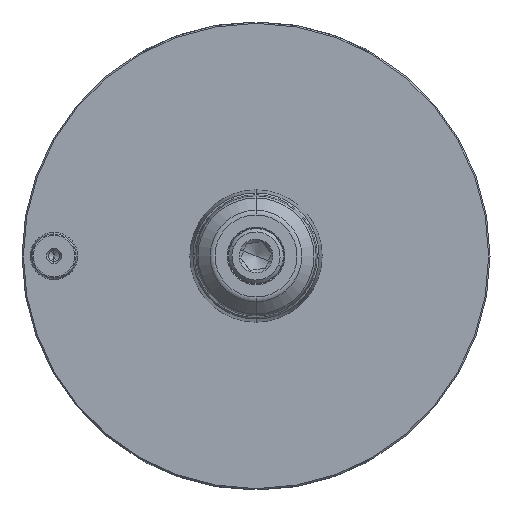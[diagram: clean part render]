
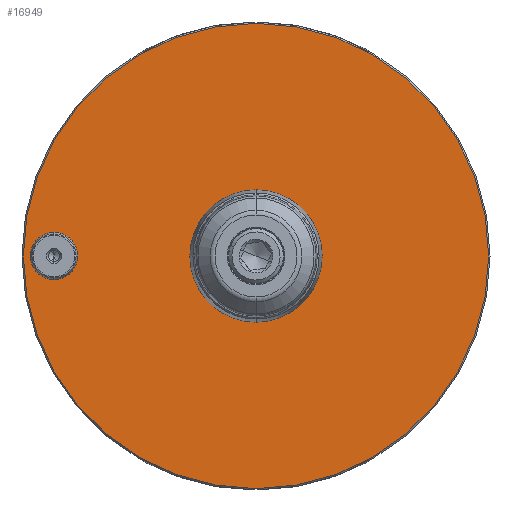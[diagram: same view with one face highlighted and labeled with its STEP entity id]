
A CAD part, left-side view. The second image highlights one B-rep face of the part: STEP entity #16949.
In plain terms, the highlighted planar face has unit normal (-1, 0, 0).
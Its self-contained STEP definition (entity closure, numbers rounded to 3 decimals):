
#116 = CARTESIAN_POINT ( 'NONE',  ( 0., 0., -12.9 ) ) ;
#355 = ORIENTED_EDGE ( 'NONE', *, *, #989, .T. ) ;
#401 = ORIENTED_EDGE ( 'NONE', *, *, #6478, .T. ) ;
#646 = DIRECTION ( 'NONE',  ( 0., 0., 1. ) ) ;
#853 = ORIENTED_EDGE ( 'NONE', *, *, #11351, .T. ) ;
#989 = EDGE_CURVE ( 'NONE', #18838, #13240, #18403, .T. ) ;
#1134 = AXIS2_PLACEMENT_3D ( 'NONE', #4746, #6275, #12097 ) ;
#1216 = EDGE_CURVE ( 'NONE', #14658, #4667, #6626, .T. ) ;
#1690 = CARTESIAN_POINT ( 'NONE',  ( 0., 60., 0. ) ) ;
#1852 = VECTOR ( 'NONE', #18145, 1000. ) ;
#2281 = AXIS2_PLACEMENT_3D ( 'NONE', #8758, #7425, #5558 ) ;
#2429 = ORIENTED_EDGE ( 'NONE', *, *, #15307, .F. ) ;
#2565 = CARTESIAN_POINT ( 'NONE',  ( 0., 60., 6.4 ) ) ;
#2987 = ORIENTED_EDGE ( 'NONE', *, *, #8102, .F. ) ;
#3138 = ORIENTED_EDGE ( 'NONE', *, *, #9247, .T. ) ;
#3237 = AXIS2_PLACEMENT_3D ( 'NONE', #18661, #14349, #16067 ) ;
#3477 = CARTESIAN_POINT ( 'NONE',  ( 0., 0., -68.998 ) ) ;
#3690 = VERTEX_POINT ( 'NONE', #2565 ) ;
#4299 = EDGE_CURVE ( 'NONE', #14076, #7759, #9909, .T. ) ;
#4667 = VERTEX_POINT ( 'NONE', #6327 ) ;
#4746 = CARTESIAN_POINT ( 'NONE',  ( 0., 0., 0. ) ) ;
#4877 = EDGE_CURVE ( 'NONE', #13240, #16198, #13535, .T. ) ;
#4881 = CARTESIAN_POINT ( 'NONE',  ( 0., 0., -68.998 ) ) ;
#4882 = FACE_BOUND ( 'NONE', #17380, .T. ) ;
#4966 = CARTESIAN_POINT ( 'NONE',  ( 0., 12.9, 0. ) ) ;
#5087 = DIRECTION ( 'NONE',  ( 0., 0., 1. ) ) ;
#5308 = CARTESIAN_POINT ( 'NONE',  ( 0., 0., 12.9 ) ) ;
#5311 = CARTESIAN_POINT ( 'NONE',  ( 0., 0., 68.998 ) ) ;
#5349 = CIRCLE ( 'NONE', #7765, 6.4 ) ;
#5558 = DIRECTION ( 'NONE',  ( 0., 0., 1. ) ) ;
#5729 = LINE ( 'NONE', #17654, #7857 ) ;
#5856 = VERTEX_POINT ( 'NONE', #8480 ) ;
#6124 = FACE_BOUND ( 'NONE', #6795, .T. ) ;
#6210 = VECTOR ( 'NONE', #11135, 1000. ) ;
#6275 = DIRECTION ( 'NONE',  ( -1., 0., 0. ) ) ;
#6327 = CARTESIAN_POINT ( 'NONE',  ( 0., -0.102, -69.1 ) ) ;
#6406 = PLANE ( 'NONE',  #18505 ) ;
#6478 = EDGE_CURVE ( 'NONE', #4667, #12591, #11436, .T. ) ;
#6589 = LINE ( 'NONE', #4881, #1852 ) ;
#6626 = LINE ( 'NONE', #10919, #17489 ) ;
#6682 = DIRECTION ( 'NONE',  ( 0., 0., -1. ) ) ;
#6795 = EDGE_LOOP ( 'NONE', ( #17958, #11832 ) ) ;
#7279 = CARTESIAN_POINT ( 'NONE',  ( 0., 0., 68.998 ) ) ;
#7368 = EDGE_CURVE ( 'NONE', #7759, #14076, #10849, .T. ) ;
#7425 = DIRECTION ( 'NONE',  ( -1., 0., 0. ) ) ;
#7507 = ORIENTED_EDGE ( 'NONE', *, *, #1216, .T. ) ;
#7759 = VERTEX_POINT ( 'NONE', #116 ) ;
#7765 = AXIS2_PLACEMENT_3D ( 'NONE', #10705, #16546, #646 ) ;
#7857 = VECTOR ( 'NONE', #16125, 1000. ) ;
#7913 = DIRECTION ( 'NONE',  ( 1., 0., 0. ) ) ;
#8017 = CARTESIAN_POINT ( 'NONE',  ( 0., 0., 0. ) ) ;
#8102 = EDGE_CURVE ( 'NONE', #3690, #5856, #14875, .T. ) ;
#8480 = CARTESIAN_POINT ( 'NONE',  ( 0., 60., -6.4 ) ) ;
#8758 = CARTESIAN_POINT ( 'NONE',  ( 0., 0., 0. ) ) ;
#9247 = EDGE_CURVE ( 'NONE', #12591, #18838, #5729, .T. ) ;
#9909 = CIRCLE ( 'NONE', #1134, 12.9 ) ;
#10263 = AXIS2_PLACEMENT_3D ( 'NONE', #1690, #14652, #14364 ) ;
#10692 = FACE_OUTER_BOUND ( 'NONE', #12611, .T. ) ;
#10705 = CARTESIAN_POINT ( 'NONE',  ( 0., 60., 0. ) ) ;
#10849 = CIRCLE ( 'NONE', #18496, 12.9 ) ;
#10919 = CARTESIAN_POINT ( 'NONE',  ( 0., -5.375, -74.373 ) ) ;
#11135 = DIRECTION ( 'NONE',  ( 0., 0.707, 0.707 ) ) ;
#11237 = CARTESIAN_POINT ( 'NONE',  ( 0., 0.102, 69.1 ) ) ;
#11351 = EDGE_CURVE ( 'NONE', #16198, #14658, #6589, .T. ) ;
#11436 = CIRCLE ( 'NONE', #3237, 69.1 ) ;
#11832 = ORIENTED_EDGE ( 'NONE', *, *, #7368, .F. ) ;
#12097 = DIRECTION ( 'NONE',  ( 0., 0., 1. ) ) ;
#12591 = VERTEX_POINT ( 'NONE', #18705 ) ;
#12611 = EDGE_LOOP ( 'NONE', ( #7507, #401, #3138, #355, #16365, #853 ) ) ;
#13240 = VERTEX_POINT ( 'NONE', #11237 ) ;
#13535 = CIRCLE ( 'NONE', #2281, 69.1 ) ;
#13961 = DIRECTION ( 'NONE',  ( -1., 0., 0. ) ) ;
#14076 = VERTEX_POINT ( 'NONE', #5308 ) ;
#14349 = DIRECTION ( 'NONE',  ( -1., 0., 0. ) ) ;
#14364 = DIRECTION ( 'NONE',  ( 0., 0., 1. ) ) ;
#14652 = DIRECTION ( 'NONE',  ( -1., 0., 0. ) ) ;
#14658 = VERTEX_POINT ( 'NONE', #3477 ) ;
#14875 = CIRCLE ( 'NONE', #10263, 6.4 ) ;
#15011 = CARTESIAN_POINT ( 'NONE',  ( 0., 0.102, -69.1 ) ) ;
#15307 = EDGE_CURVE ( 'NONE', #5856, #3690, #5349, .T. ) ;
#16067 = DIRECTION ( 'NONE',  ( 0., 0., 1. ) ) ;
#16125 = DIRECTION ( 'NONE',  ( 0., 0.707, -0.707 ) ) ;
#16198 = VERTEX_POINT ( 'NONE', #15011 ) ;
#16365 = ORIENTED_EDGE ( 'NONE', *, *, #4877, .T. ) ;
#16546 = DIRECTION ( 'NONE',  ( -1., 0., 0. ) ) ;
#16949 = ADVANCED_FACE ( 'NONE', ( #4882, #6124, #10692 ), #6406, .F. ) ;
#17380 = EDGE_LOOP ( 'NONE', ( #2987, #2429 ) ) ;
#17489 = VECTOR ( 'NONE', #18002, 1000. ) ;
#17654 = CARTESIAN_POINT ( 'NONE',  ( 0., -5.375, 74.373 ) ) ;
#17958 = ORIENTED_EDGE ( 'NONE', *, *, #4299, .F. ) ;
#18002 = DIRECTION ( 'NONE',  ( 0., -0.707, -0.707 ) ) ;
#18145 = DIRECTION ( 'NONE',  ( 0., -0.707, 0.707 ) ) ;
#18403 = LINE ( 'NONE', #5311, #6210 ) ;
#18496 = AXIS2_PLACEMENT_3D ( 'NONE', #8017, #13961, #5087 ) ;
#18505 = AXIS2_PLACEMENT_3D ( 'NONE', #4966, #7913, #6682 ) ;
#18661 = CARTESIAN_POINT ( 'NONE',  ( 0., 0., 0. ) ) ;
#18705 = CARTESIAN_POINT ( 'NONE',  ( 0., -0.102, 69.1 ) ) ;
#18838 = VERTEX_POINT ( 'NONE', #7279 ) ;
